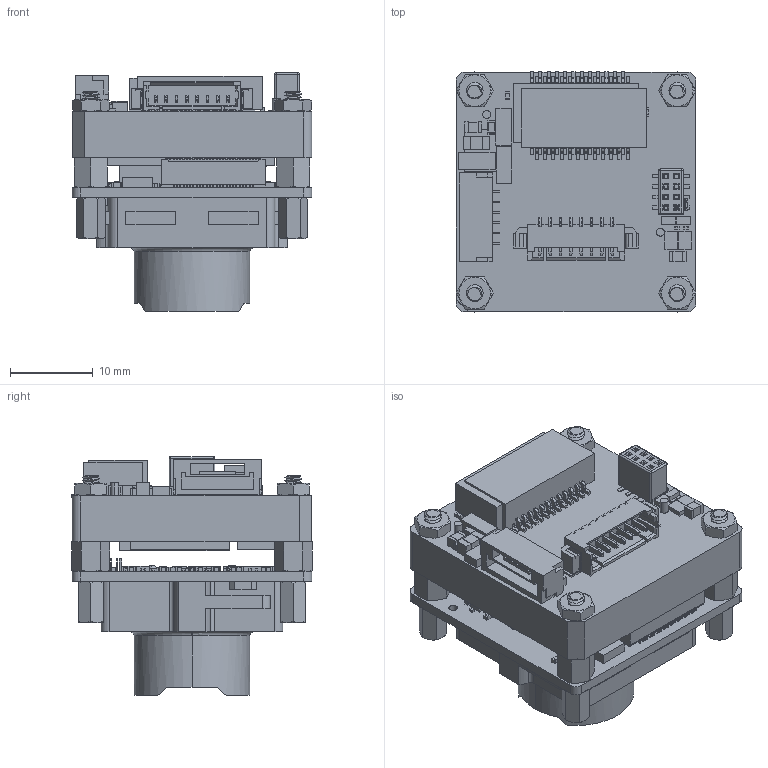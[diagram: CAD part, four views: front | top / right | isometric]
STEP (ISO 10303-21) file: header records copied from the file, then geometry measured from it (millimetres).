
FILE_DESCRIPTION((''),'2;1');
FILE_NAME('MV-CB016-10GM-WM','2020-11-16T14:44:26',('gengdawei'),(''),'CREO PARAMETRIC BY PTC INC, 2017260','CREO PARAMETRIC BY PTC INC, 2017260','');
FILE_SCHEMA(('CONFIG_CONTROL_DESIGN'));
Products named in the file (1): MV-CB016-10GM-WM
Bounding box: 29.01 x 29.12 x 28.9 mm (x, y, z)
Volume: 9680.1 mm3; surface area: 11429 mm2
Topology: 1 solids, 8 shells, 7558 faces, 22111 edges, 14637 vertices
Faces by surface type: plane 5567, cylinder 1733, cone 172, bspline 40, torus 34, sphere 12
Entity records: 255579 total; most frequent: CARTESIAN_POINT 50520, ORIENTED_EDGE 44190, DIRECTION 40253, EDGE_CURVE 22095, VECTOR 17957, LINE 17957, VERTEX_POINT 14637, AXIS2_PLACEMENT_3D 11148
